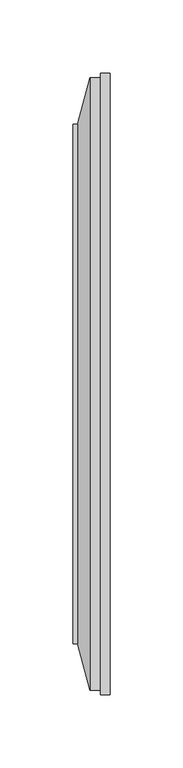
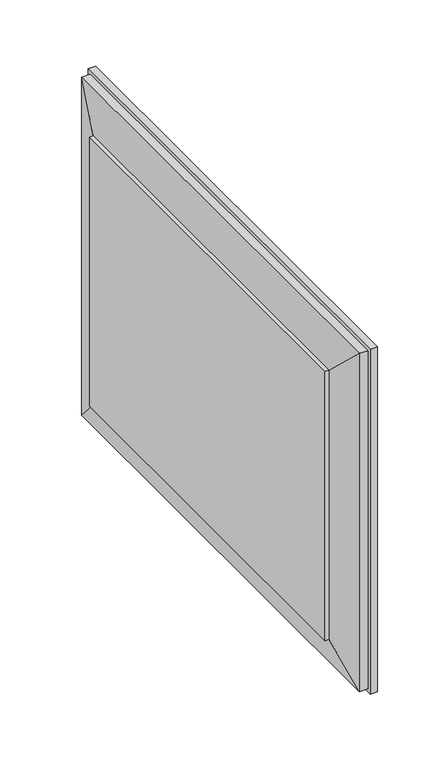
"""IFC4 building model written with IfcOpenShell, lengths in millimetres: proxy geometry, CAMBRIDGE^TABLE 2_4884 Rect-OUT END PANEL."""

from ifc_helpers import new_model, si_unit, origin, place, context, project, spatial, faceted_brep, source, transform, mapped, element, save


def generic_models_fbbde6ac(model_context):
    return source(origin(), model_context, "Body", "Brep", [
        faceted_brep([(609.6, -536.575, -485.775), (612.775, -536.575, -485.775), (612.775, -180.975, -485.775), (609.6, -180.975, -485.775), (621.2823869, -568.325, -454.025), (621.2823869, -149.225, -454.025), (628.65, -568.325, -454.025), (628.65, -149.225, -454.025), (609.6, -536.575, -733.425), (612.775, -536.575, -733.425), (621.2823869, -568.325, -765.175), (628.65, -568.325, -765.175), (628.65, -146.05, -450.85), (628.65, -146.05, -768.35), (628.65, -571.5, -768.35), (628.65, -571.5, -450.85), (628.65, -149.225, -765.175), (609.6, -180.975, -733.425), (612.775, -180.975, -733.425), (621.2823869, -149.225, -765.175), (635.0, -571.5, -450.85), (635.0, -146.05, -450.85), (635.0, -571.5, -768.35), (635.0, -146.05, -768.35)], [[[0, 1, 2, 3]], [[1, 4, 5, 2]], [[4, 6, 7, 5]], [[8, 9, 1, 0]], [[9, 10, 4, 1]], [[10, 11, 6, 4]], [[12, 13, 14, 15], [11, 16, 7, 6]], [[17, 18, 9, 8]], [[18, 19, 10, 9]], [[19, 16, 11, 10]], [[3, 2, 18, 17]], [[2, 5, 19, 18]], [[5, 7, 16, 19]], [[12, 15, 20, 21]], [[15, 14, 22, 20]], [[14, 13, 23, 22]], [[13, 12, 21, 23]], [[0, 3, 17, 8]], [[20, 22, 23, 21]]]),
    ])


if __name__ == "__main__":
    model = new_model("IFC4")
    model_context = context("Model", 3, world=origin())
    ifc_project = project(units=[si_unit("LENGTHUNIT", "METRE", prefix="MILLI")], contexts=[model_context])
    site = spatial("IfcSite", under=ifc_project)
    building = spatial("IfcBuilding", under=site)
    placement = place(None, origin())
    generic_models_shape = generic_models_fbbde6ac(model_context)
    element("IfcBuildingElementProxy", 1, Name="CAMBRIDGE^TABLE 2_4884 Rect-OUT END PANEL", ObjectType="CAMBRIDGE^TABLE 2_4884 Rect-OUT END PANEL", at=placement, inside=building, context=model_context, shape_type="MappedRepresentation", body=[
        mapped(generic_models_shape, transform((0.0, 0.0, 0.0), x_axis=(1.0, 0.0, 0.0), y_axis=(0.0, 1.0, 0.0), z_axis=(0.0, 0.0, 1.0))),
    ])
    save(model, "model.ifc")
